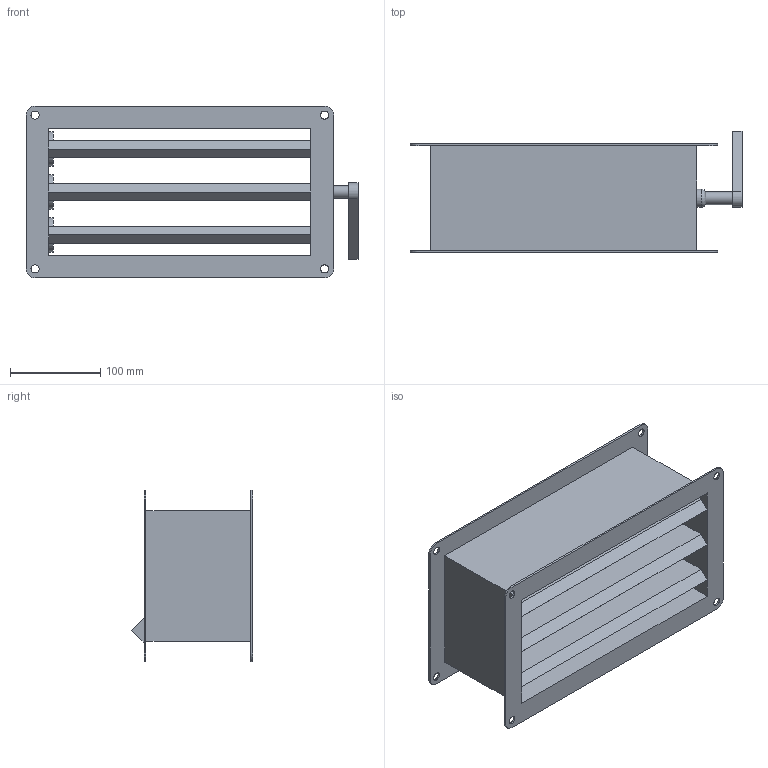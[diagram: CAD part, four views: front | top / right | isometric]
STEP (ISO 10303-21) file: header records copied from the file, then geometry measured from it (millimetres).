
FILE_DESCRIPTION(/* description */ (''),/* implementation_level */ '2;1');
FILE_NAME(/* name */ 'Z:\Output\JVK_30-15-06927-004.stp',/* time_stamp */ '2017-07-11T11:30:50+02:00',/* author */ ('Engineering1'),/* organization */ (''),/* preprocessor_version */ 'ST-DEVELOPER v16.5',/* originating_system */ 'Autodesk Inventor 2017',/* authorisation */ '');
FILE_SCHEMA (('AUTOMOTIVE_DESIGN { 1 0 10303 214 3 1 1 }'));
Length unit declared in the file: millimetre
Products named in the file (1): JVK-1
Bounding box: 367 x 134.14 x 190 mm (x, y, z)
Volume: 2162989.5 mm3; surface area: 519711.7 mm2
Topology: 1 solids, 1 shells, 87 faces, 237 edges, 152 vertices
Faces by surface type: plane 57, cylinder 27, bspline 3
Full cylindrical faces by diameter (mm): 9 x8, 14 x1, 20 x3
Entity records: 2754 total; most frequent: CARTESIAN_POINT 537, DIRECTION 446, ORIENTED_EDGE 438, EDGE_CURVE 219, LINE 156, VECTOR 156, VERTEX_POINT 146, AXIS2_PLACEMENT_3D 145
